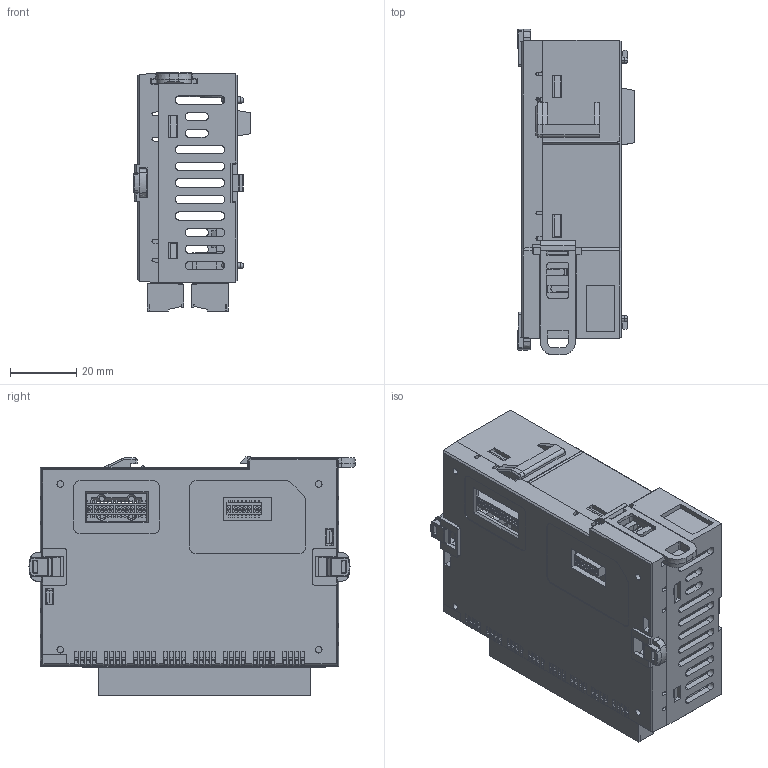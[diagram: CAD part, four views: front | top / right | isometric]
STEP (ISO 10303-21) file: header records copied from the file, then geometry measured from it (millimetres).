
FILE_DESCRIPTION (( 'STEP AP214' ), '1' );
FILE_NAME ('11.STEP', '2021-10-05T01:33:28', ( '' ), ( '' ), 'SwSTEP 2.0', 'SolidWorks 2021', '' );
FILE_SCHEMA (( 'AUTOMOTIVE_DESIGN' ));
Length unit declared in the file: millimetre
Products named in the file (11): 7.STEP_A; 9.STEP_A; 1.STEP_A; 2.STEP_A; 6.STEP_A; 5.STEP_a; 4.STEP; 11; 3.STEP; 8.STEP_A; 10.STEP
Assembly tree (14 placements, depth 2):
  11
    1.STEP_A
    2.STEP_A
    3.STEP
    4.STEP
    5.STEP_a  x2
    6.STEP_A  x2
    7.STEP_A
    8.STEP_A  x2
    9.STEP_A
    10.STEP  x2
Bounding box: 35.25 x 98.44 x 71.9 mm (x, y, z)
Volume: 50552.9 mm3; surface area: 75560.9 mm2
Topology: 14 solids, 14 shells, 5580 faces, 14829 edges, 9605 vertices
Faces by surface type: plane 4779, cylinder 662, cone 74, bspline 31, sphere 20, torus 14
Entity records: 124428 total; most frequent: CARTESIAN_POINT 22917, ORIENTED_EDGE 21624, DIRECTION 19557, EDGE_CURVE 10812, LINE 9621, VECTOR 9621, VERTEX_POINT 6981, AXIS2_PLACEMENT_3D 4968
